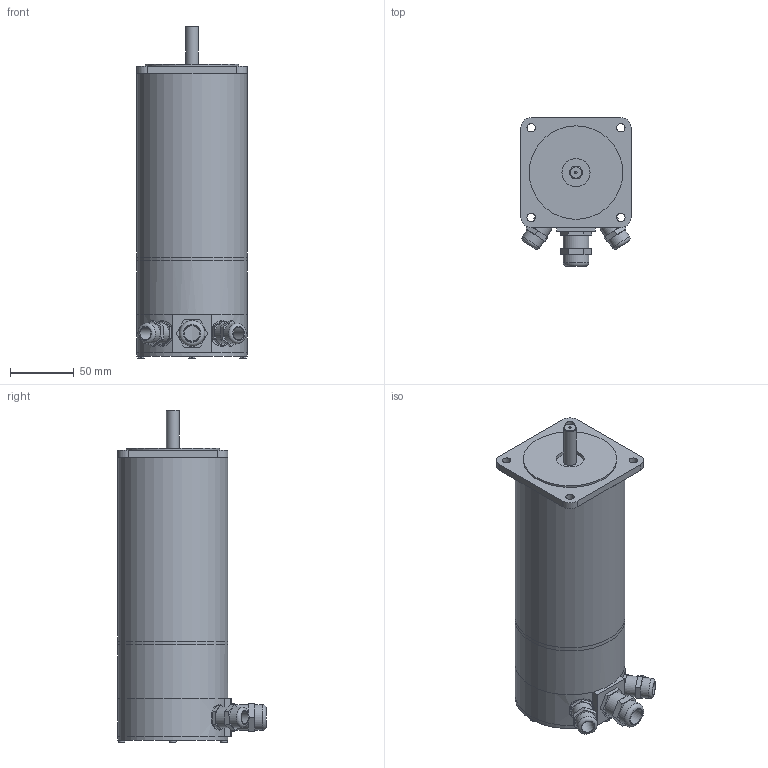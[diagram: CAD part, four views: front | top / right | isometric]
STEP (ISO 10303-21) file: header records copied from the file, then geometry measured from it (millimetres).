
FILE_DESCRIPTION((''),'2;1');
FILE_NAME('C:\Users\Reinhard\Documents\Inventor\Testschrittmotor\SM87\SM87.4-BE50-KV.stp','2012-11-14T20:35:12',('Reinhard'),(''),'Autodesk Inventor 2012','Autodesk Inventor 2012','');
FILE_SCHEMA(('CONFIG_CONTROL_DESIGN'));
Length unit declared in the file: millimetre
Products named in the file (1): SM87
Bounding box: 86 x 115.99 x 259.4 mm (x, y, z)
Volume: 222972.6 mm3; surface area: 163070.6 mm2
Topology: 2 solids, 3 shells, 171 faces, 385 edges, 252 vertices
Faces by surface type: plane 106, cylinder 57, cone 3, torus 3, sphere 2
Full cylindrical faces by diameter (mm): 2 x1, 5 x4, 6.6 x4, 10 x3, 12 x3, 13 x2, 15 x1, 16 x4, 18.376 x1, 20 x3, 22 x1, 73 x1, 78 x2, 82 x2, 86 x4
Entity records: 4680 total; most frequent: CARTESIAN_POINT 936, DIRECTION 784, ORIENTED_EDGE 664, EDGE_CURVE 332, AXIS2_PLACEMENT_3D 298, EDGE_LOOP 261, VERTEX_POINT 241, VECTOR 188
